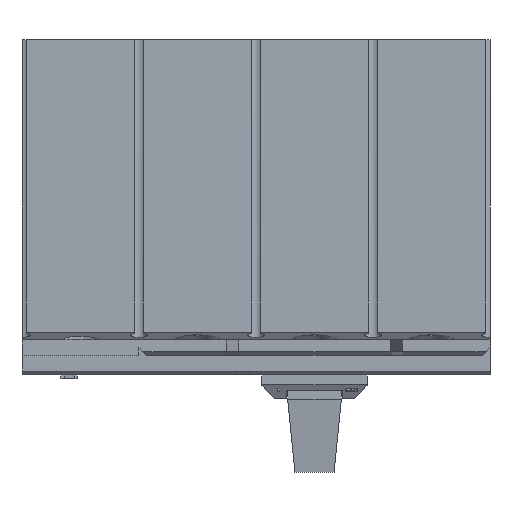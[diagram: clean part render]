
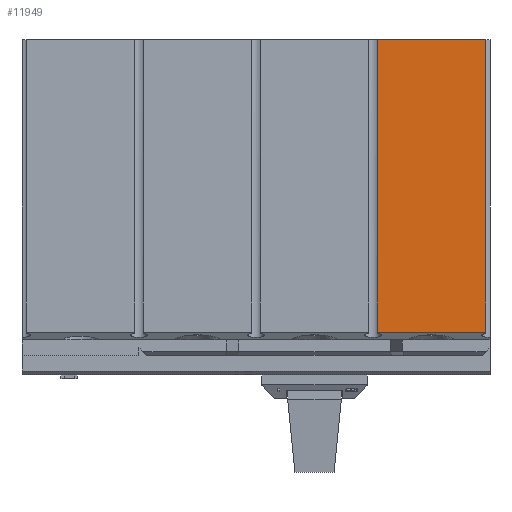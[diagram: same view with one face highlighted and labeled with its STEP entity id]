
A CAD part, front view. The second image highlights one B-rep face of the part: STEP entity #11949.
In plain terms, the highlighted planar face has unit normal (0, -1, 0).
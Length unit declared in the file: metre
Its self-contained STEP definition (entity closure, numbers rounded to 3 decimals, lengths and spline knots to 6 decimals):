
#905=FACE_OUTER_BOUND('',#1555,.T.);
#1555=EDGE_LOOP('',(#10290,#10291,#10292,#10293));
#3032=LINE('',#19219,#4543);
#3034=LINE('',#19223,#4545);
#3035=LINE('',#19225,#4546);
#3036=LINE('',#19226,#4547);
#4543=VECTOR('',#15385,0.075);
#4545=VECTOR('',#15389,0.0278);
#4546=VECTOR('',#15390,0.075);
#4547=VECTOR('',#15391,0.0278);
#5683=VERTEX_POINT('',#19216);
#5684=VERTEX_POINT('',#19218);
#5685=VERTEX_POINT('',#19222);
#5686=VERTEX_POINT('',#19224);
#7288=EDGE_CURVE('',#5683,#5684,#3032,.T.);
#7290=EDGE_CURVE('',#5685,#5683,#3034,.T.);
#7291=EDGE_CURVE('',#5685,#5686,#3035,.T.);
#7292=EDGE_CURVE('',#5684,#5686,#3036,.T.);
#10290=ORIENTED_EDGE('',*,*,#7290,.F.);
#10291=ORIENTED_EDGE('',*,*,#7291,.T.);
#10292=ORIENTED_EDGE('',*,*,#7292,.F.);
#10293=ORIENTED_EDGE('',*,*,#7288,.F.);
#11361=PLANE('',#12662);
#11949=ADVANCED_FACE('',(#905),#11361,.T.);
#12662=AXIS2_PLACEMENT_3D('',#19221,#15387,#15388);
#15385=DIRECTION('',(0.,0.,-1.));
#15387=DIRECTION('center_axis',(0.,-1.,0.));
#15388=DIRECTION('ref_axis',(0.,0.,-1.));
#15389=DIRECTION('',(1.,0.,0.));
#15390=DIRECTION('',(0.,0.,-1.));
#15391=DIRECTION('',(-1.,0.,0.));
#19216=CARTESIAN_POINT('',(0.0439,-0.07,0.077));
#19218=CARTESIAN_POINT('',(0.0439,-0.07,0.002));
#19219=CARTESIAN_POINT('',(0.0439,-0.07,0.077));
#19221=CARTESIAN_POINT('Origin',(-0.045,-0.07,0.077));
#19222=CARTESIAN_POINT('',(0.0161,-0.07,0.077));
#19223=CARTESIAN_POINT('',(0.0161,-0.07,0.077));
#19224=CARTESIAN_POINT('',(0.0161,-0.07,0.002));
#19225=CARTESIAN_POINT('',(0.0161,-0.07,0.077));
#19226=CARTESIAN_POINT('',(0.0439,-0.07,0.002));
